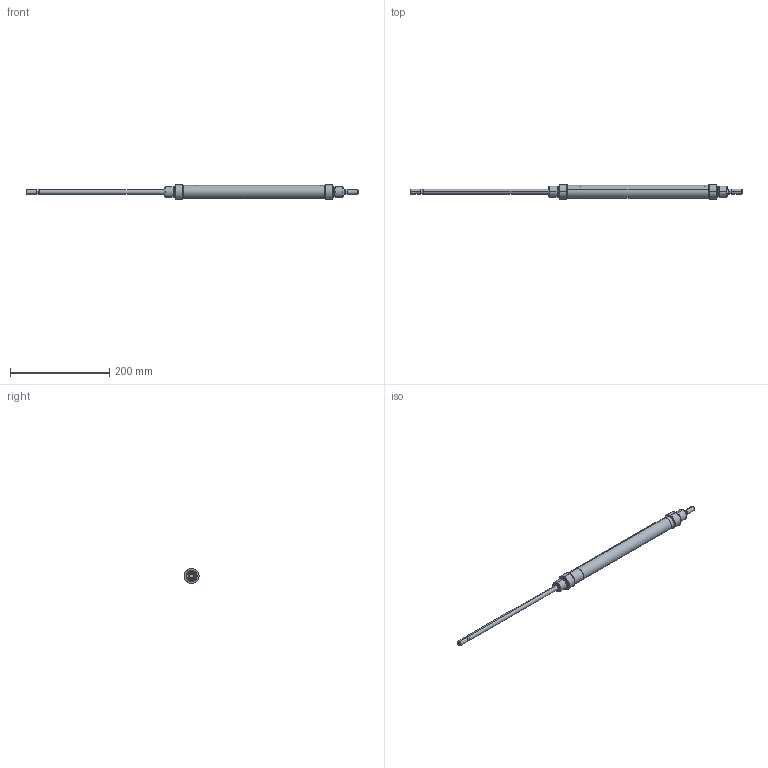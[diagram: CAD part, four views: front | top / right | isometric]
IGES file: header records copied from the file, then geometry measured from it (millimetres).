
Start section: SolidWorks IGES file using analytic representation for surfaces
Global section: file name: K:\Disegni Esecutivi\Cilindri\2_DISEGNI_cilindri_in_produzione\2_Minicilindri ISO 6432\1Minisolidworks\6_minicilidro iso 6432 _25 solidworks\CPLXMINI25\MJ025\MJ025_PIENO\MJ0250250A.igs; native system: SolidWorks 2011; preprocessor: SolidWorks 2011; author: cad01; date: 110506.142711; units: millimetre
Bounding box: 669 x 28.5 x 30 mm (x, y, z)
Surface area: 70188.6 mm2 (no closed solid volume)
Topology: 0 solids, 0 shells, 124 faces, 2144 edges, 2144 vertices
Faces by surface type: revolution 80, bspline 44
